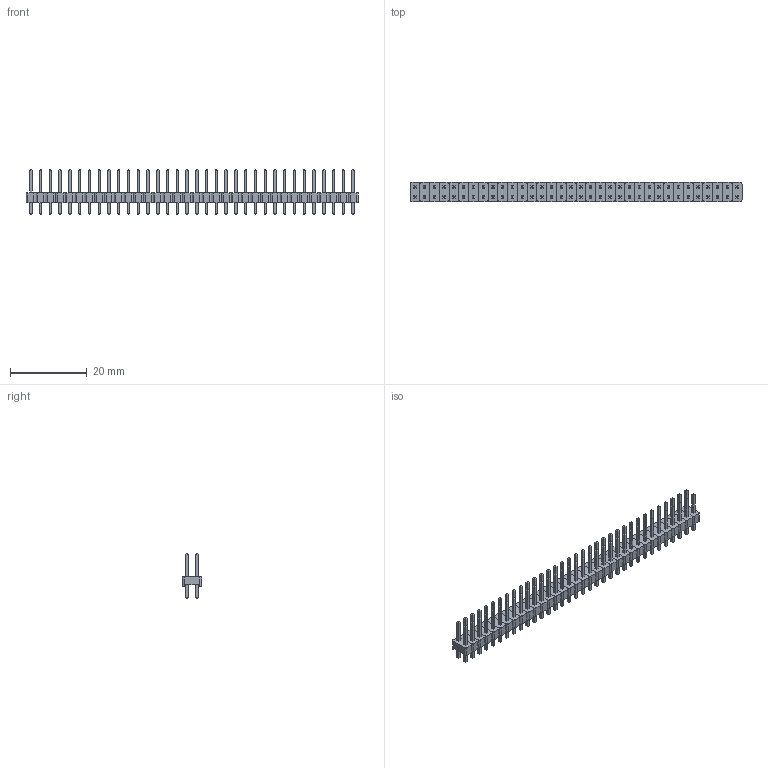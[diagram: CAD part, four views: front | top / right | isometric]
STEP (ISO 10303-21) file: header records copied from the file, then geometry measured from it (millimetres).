
FILE_DESCRIPTION(('FreeCAD Model'),'2;1');
FILE_NAME('Open CASCADE Shape Model','2022-04-06T16:09:59',( 'Engenharia Metaltex'),('Metaltex'), 'Open CASCADE STEP processor 7.5','FreeCAD','Unknown');
FILE_SCHEMA(('AUTOMOTIVE_DESIGN { 1 0 10303 214 1 1 1 1 }'));
Length unit declared in the file: millimetre
Products named in the file (137): BPDC; 34; Base033; Pino068; Pino067; 1; Base; Pino1; Pino2; 2; Base001; Pino003; Pino004; 3; Base002; Pino006; Pino005; 4; Base003; Pino008; Pino007; 5; Base004; Pino009; Pino010; 6; Base005; Pino012; Pino011; 7; Base006; Pino013; Pino014; 8; Base007; Pino015; Pino016; 9; Base008; Pino017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
Assembly tree (136 placements, depth 3):
  BPDC
    34
      Base033
      Pino068
      Pino067
    1
      Base
      Pino1
      Pino2
    2
      Base001
      Pino003
      Pino004
    3
      Base002
      Pino006
      Pino005
    4
      Base003
      Pino008
      Pino007
    5
      Base004
      Pino009
      Pino010
    6
      Base005
      Pino012
      Pino011
    7
      Base006
      Pino013
      Pino014
    8
      Base007
      Pino015
      Pino016
    9
      Base008
      Pino017
      Pino018
    10
      Base009
      Pino019
      Pino020
    11
      Base010
      Pino021
      Pino022
    12
      Base011
      Pino023
      Pino024
    13
      Base012
      Pino025
      Pino026
    14
      Base013
      Pino027
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Bounding box: 86.36 x 5.08 x 11.54 mm (x, y, z)
Volume: 1187.3 mm3; surface area: 4373.5 mm2
Topology: 102 solids, 102 shells, 1700 faces, 3944 edges, 2448 vertices
Faces by surface type: plane 1564, cylinder 136
Entity records: 102019 total; most frequent: CARTESIAN_POINT 16933, DIRECTION 15642, LINE 11288, VECTOR 11288, ORIENTED_EDGE 7888, PCURVE 7888, DEFINITIONAL_REPRESENTATION 7888, EDGE_CURVE 3944
